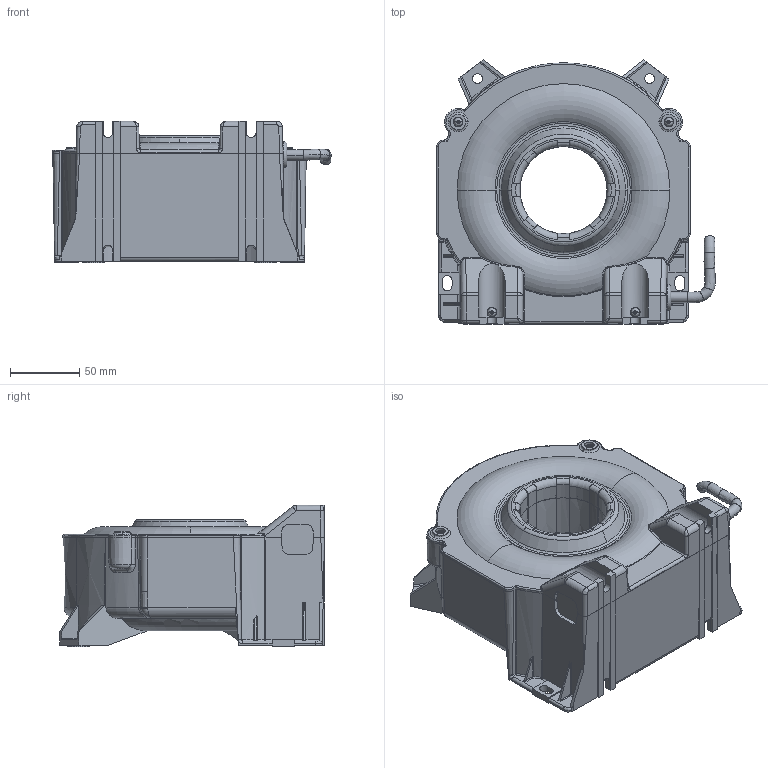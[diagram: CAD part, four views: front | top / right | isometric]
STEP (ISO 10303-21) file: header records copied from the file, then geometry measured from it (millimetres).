
FILE_DESCRIPTION(('Creo Elements/Direct Modeling STEP Export'),'2;1');
FILE_NAME('ITC_2000_head_blackbox.stp','2014-07-22T11:20:26',(''),(''),'Creo Elements/Direct Modeling STEP processor for AP214 (Solid Model)','Creo Elements/Direct Modeling 17.0E 05-Feb-2012 (C) Parametric Technology GmbH','');
FILE_SCHEMA(('AUTOMOTIVE_DESIGN { 1 0 10303 214 1 1 1 1 }'));
Length unit declared in the file: millimetre
Products named in the file (8): 8151-12900_PRT-13020.PRT; CLOSED_PCB-2170270_PRT-18400.PRT; OUTPUT_CABLE-63580_PRT-65620.PRT; P1-2184460_PRT-79930.PRT; PT_SCREW_KA35X12_47308251-88710.PRT; cover_versA_flat_paroie_droite; CASE_VERSA_FLAT_PAROIE_-1211400.prt.1; ITC_2000_HEAD_BLACKBOX
Assembly tree (10 placements, depth 2):
  ITC_2000_HEAD_BLACKBOX
    CASE_VERSA_FLAT_PAROIE_-1211400.prt.1
    cover_versA_flat_paroie_droite
    PT_SCREW_KA35X12_47308251-88710.PRT  x4
    P1-2184460_PRT-79930.PRT
    OUTPUT_CABLE-63580_PRT-65620.PRT
    CLOSED_PCB-2170270_PRT-18400.PRT
    8151-12900_PRT-13020.PRT
Bounding box: 201.5 x 191.39 x 102.22 mm (x, y, z)
Volume: 392889.3 mm3; surface area: 313981.9 mm2
Topology: 10 solids, 10 shells, 3224 faces, 8873 edges, 5721 vertices
Faces by surface type: plane 1883, cylinder 549, bspline 290, torus 267, cone 212, sphere 14, extrusion 6, revolution 3
Entity records: 157877 total; most frequent: CARTESIAN_POINT 80407, ORIENTED_EDGE 17246, DIRECTION 14347, EDGE_CURVE 8623, VERTEX_POINT 5586, VECTOR 5240, LINE 5234, AXIS2_PLACEMENT_3D 4552
